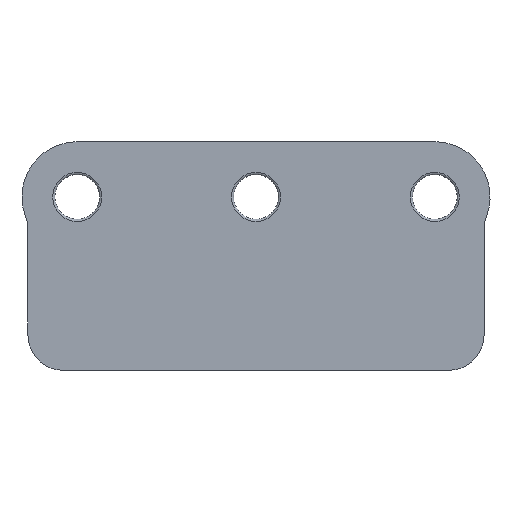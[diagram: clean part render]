
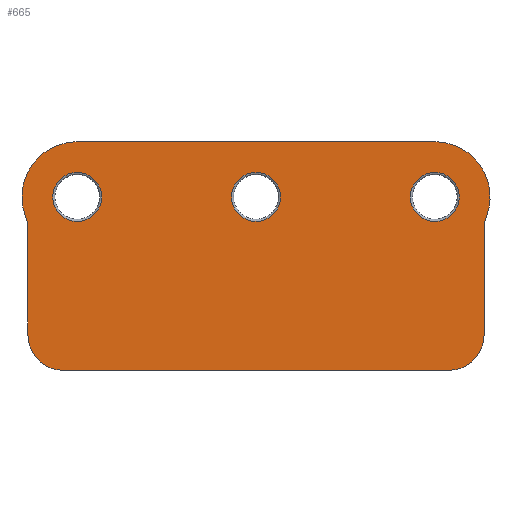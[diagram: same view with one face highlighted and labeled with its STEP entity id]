
A CAD part, front view. The second image highlights one B-rep face of the part: STEP entity #665.
In plain terms, the highlighted planar face has unit normal (0, -1, 0).
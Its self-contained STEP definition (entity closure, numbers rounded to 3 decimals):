
#16=FACE_BOUND('',#89,.T.);
#17=FACE_BOUND('',#90,.T.);
#18=FACE_BOUND('',#91,.T.);
#33=PLANE('',#729);
#50=FACE_OUTER_BOUND('',#88,.T.);
#88=EDGE_LOOP('',(#465,#466,#467,#468,#469,#470,#471,#472,#473,#474));
#89=EDGE_LOOP('',(#475));
#90=EDGE_LOOP('',(#476));
#91=EDGE_LOOP('',(#477));
#133=LINE('',#1064,#172);
#139=LINE('',#1105,#178);
#140=LINE('',#1107,#179);
#141=LINE('',#1110,#180);
#172=VECTOR('',#822,10.);
#178=VECTOR('',#860,10.);
#179=VECTOR('',#861,10.);
#180=VECTOR('',#864,10.);
#210=CIRCLE('',#714,5.);
#213=CIRCLE('',#719,5.);
#215=CIRCLE('',#722,7.85);
#217=CIRCLE('',#725,3.475);
#221=CIRCLE('',#730,5.);
#222=CIRCLE('',#731,7.85);
#223=CIRCLE('',#732,5.);
#224=CIRCLE('',#733,3.475);
#225=CIRCLE('',#734,3.475);
#272=VERTEX_POINT('',#1052);
#273=VERTEX_POINT('',#1054);
#275=VERTEX_POINT('',#1063);
#281=VERTEX_POINT('',#1079);
#282=VERTEX_POINT('',#1081);
#284=VERTEX_POINT('',#1087);
#286=VERTEX_POINT('',#1093);
#289=VERTEX_POINT('',#1101);
#290=VERTEX_POINT('',#1103);
#291=VERTEX_POINT('',#1106);
#292=VERTEX_POINT('',#1108);
#293=VERTEX_POINT('',#1111);
#294=VERTEX_POINT('',#1113);
#340=EDGE_CURVE('',#272,#273,#210,.T.);
#343=EDGE_CURVE('',#275,#273,#133,.T.);
#350=EDGE_CURVE('',#281,#282,#213,.T.);
#353=EDGE_CURVE('',#282,#284,#215,.T.);
#356=EDGE_CURVE('',#286,#286,#217,.T.);
#360=EDGE_CURVE('',#275,#289,#221,.T.);
#361=EDGE_CURVE('',#290,#272,#222,.T.);
#362=EDGE_CURVE('',#284,#290,#139,.T.);
#363=EDGE_CURVE('',#281,#291,#140,.T.);
#364=EDGE_CURVE('',#292,#291,#223,.T.);
#365=EDGE_CURVE('',#292,#289,#141,.T.);
#366=EDGE_CURVE('',#293,#293,#224,.T.);
#367=EDGE_CURVE('',#294,#294,#225,.T.);
#465=ORIENTED_EDGE('',*,*,#360,.F.);
#466=ORIENTED_EDGE('',*,*,#343,.T.);
#467=ORIENTED_EDGE('',*,*,#340,.F.);
#468=ORIENTED_EDGE('',*,*,#361,.F.);
#469=ORIENTED_EDGE('',*,*,#362,.F.);
#470=ORIENTED_EDGE('',*,*,#353,.F.);
#471=ORIENTED_EDGE('',*,*,#350,.F.);
#472=ORIENTED_EDGE('',*,*,#363,.T.);
#473=ORIENTED_EDGE('',*,*,#364,.F.);
#474=ORIENTED_EDGE('',*,*,#365,.T.);
#475=ORIENTED_EDGE('',*,*,#366,.F.);
#476=ORIENTED_EDGE('',*,*,#367,.F.);
#477=ORIENTED_EDGE('',*,*,#356,.F.);
#665=ADVANCED_FACE('',(#50,#16,#17,#18),#33,.F.);
#714=AXIS2_PLACEMENT_3D('',#1055,#817,#818);
#719=AXIS2_PLACEMENT_3D('',#1082,#832,#833);
#722=AXIS2_PLACEMENT_3D('',#1088,#839,#840);
#725=AXIS2_PLACEMENT_3D('',#1094,#846,#847);
#729=AXIS2_PLACEMENT_3D('',#1100,#854,#855);
#730=AXIS2_PLACEMENT_3D('',#1102,#856,#857);
#731=AXIS2_PLACEMENT_3D('',#1104,#858,#859);
#732=AXIS2_PLACEMENT_3D('',#1109,#862,#863);
#733=AXIS2_PLACEMENT_3D('',#1112,#865,#866);
#734=AXIS2_PLACEMENT_3D('',#1114,#867,#868);
#817=DIRECTION('center_axis',(0.,-1.,0.));
#818=DIRECTION('ref_axis',(-0.983,0.,0.182));
#822=DIRECTION('',(0.,0.,1.));
#832=DIRECTION('center_axis',(0.,-1.,0.));
#833=DIRECTION('ref_axis',(0.983,0.,0.182));
#839=DIRECTION('center_axis',(0.,1.,0.));
#840=DIRECTION('ref_axis',(-0.892,0.,-0.453));
#846=DIRECTION('center_axis',(0.,-1.,0.));
#847=DIRECTION('ref_axis',(1.,0.,0.));
#854=DIRECTION('center_axis',(0.,1.,0.));
#855=DIRECTION('ref_axis',(1.,0.,0.));
#856=DIRECTION('center_axis',(0.,1.,0.));
#857=DIRECTION('ref_axis',(0.707,0.,-0.707));
#858=DIRECTION('center_axis',(0.,1.,0.));
#859=DIRECTION('ref_axis',(0.,0.,1.));
#860=DIRECTION('',(1.,0.,0.));
#861=DIRECTION('',(0.,0.,-1.));
#862=DIRECTION('center_axis',(0.,1.,0.));
#863=DIRECTION('ref_axis',(-0.707,0.,-0.707));
#864=DIRECTION('',(1.,0.,0.));
#865=DIRECTION('center_axis',(0.,-1.,0.));
#866=DIRECTION('ref_axis',(1.,0.,0.));
#867=DIRECTION('center_axis',(0.,-1.,0.));
#868=DIRECTION('ref_axis',(1.,0.,0.));
#1052=CARTESIAN_POINT('',(32.731,0.,-2.808));
#1054=CARTESIAN_POINT('',(32.4,0.,-4.596));
#1055=CARTESIAN_POINT('Origin',(37.4,0.,-4.596));
#1063=CARTESIAN_POINT('',(32.4,0.,-19.621));
#1064=CARTESIAN_POINT('',(32.4,0.,-24.621));
#1079=CARTESIAN_POINT('',(-32.4,0.,-4.596));
#1081=CARTESIAN_POINT('',(-32.731,0.,-2.808));
#1082=CARTESIAN_POINT('Origin',(-37.4,0.,-4.596));
#1087=CARTESIAN_POINT('',(-25.4,0.,7.85));
#1088=CARTESIAN_POINT('Origin',(-25.4,0.,0.));
#1093=CARTESIAN_POINT('',(25.4,0.,-3.475));
#1094=CARTESIAN_POINT('Origin',(25.4,0.,0.));
#1100=CARTESIAN_POINT('Origin',(0.,0.,-8.386));
#1101=CARTESIAN_POINT('',(27.4,0.,-24.621));
#1102=CARTESIAN_POINT('Origin',(27.4,0.,-19.621));
#1103=CARTESIAN_POINT('',(25.4,0.,7.85));
#1104=CARTESIAN_POINT('Origin',(25.4,0.,0.));
#1105=CARTESIAN_POINT('',(-25.4,0.,7.85));
#1106=CARTESIAN_POINT('',(-32.4,0.,-19.621));
#1107=CARTESIAN_POINT('',(-32.4,0.,-3.553));
#1108=CARTESIAN_POINT('',(-27.4,0.,-24.621));
#1109=CARTESIAN_POINT('Origin',(-27.4,0.,-19.621));
#1110=CARTESIAN_POINT('',(-32.4,0.,-24.621));
#1111=CARTESIAN_POINT('',(0.,0.,-3.475));
#1112=CARTESIAN_POINT('Origin',(0.,0.,0.));
#1113=CARTESIAN_POINT('',(-25.4,0.,-3.475));
#1114=CARTESIAN_POINT('Origin',(-25.4,0.,0.));
